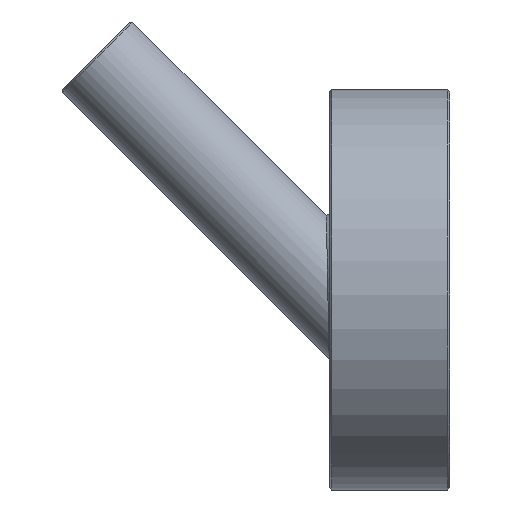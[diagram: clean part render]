
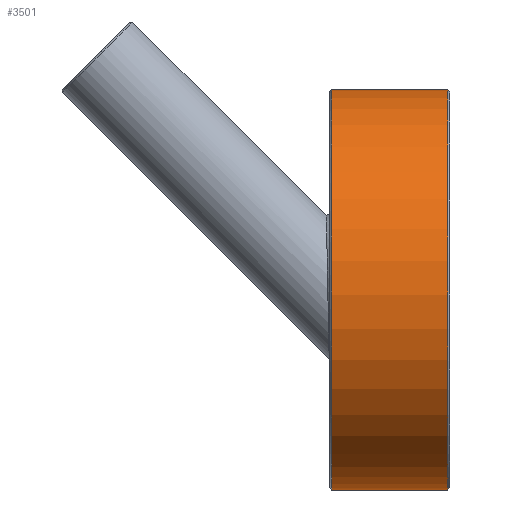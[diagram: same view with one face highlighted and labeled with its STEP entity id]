
A CAD part, left-side view. The second image highlights one B-rep face of the part: STEP entity #3501.
In plain terms, the highlighted cylindrical face has radius 20 mm (diameter 40 mm), a partial arc.
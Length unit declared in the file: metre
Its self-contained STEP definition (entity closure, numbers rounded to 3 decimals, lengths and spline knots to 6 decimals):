
#3470=EDGE_CURVE('',#3471,#3473,#3475,.T.);
#3471=VERTEX_POINT('',#3472);
#3472=CARTESIAN_POINT('',(-0.14,0.0118,0.02));
#3473=VERTEX_POINT('',#3474);
#3474=CARTESIAN_POINT('',(-0.14,0.0002,0.02));
#3475=LINE('',#3476,#3477);
#3476=CARTESIAN_POINT('',(-0.14,0.012,0.02));
#3477=VECTOR('',#3478,1.0);
#3478=DIRECTION('',(0.0,-1.0,0.0));
#3501=ADVANCED_FACE('',(#3507),#3502,.T.);
#3502=CYLINDRICAL_SURFACE('',#3503,0.02);
#3503=AXIS2_PLACEMENT_3D('',#3504,#3505,#3506);
#3504=CARTESIAN_POINT('',(-0.14,0.012,0.0));
#3505=DIRECTION('',(0.0,-1.0,0.0));
#3506=DIRECTION('',(0.0,0.0,-1.0));
#3507=FACE_OUTER_BOUND('',#3508,.T.);
#3508=EDGE_LOOP('',(#3509,#3519,#3526,#3527));
#3509=ORIENTED_EDGE('',*,*,#3510,.T.);
#3510=EDGE_CURVE('',#3511,#3513,#3515,.T.);
#3511=VERTEX_POINT('',#3512);
#3512=CARTESIAN_POINT('',(-0.14,0.0118,-0.02));
#3513=VERTEX_POINT('',#3514);
#3514=CARTESIAN_POINT('',(-0.14,0.0002,-0.02));
#3515=LINE('',#3516,#3517);
#3516=CARTESIAN_POINT('',(-0.14,0.012,-0.02));
#3517=VECTOR('',#3518,1.0);
#3518=DIRECTION('',(0.0,-1.0,0.0));
#3519=ORIENTED_EDGE('',*,*,#3521,.T.);
#3520=CARTESIAN_POINT('',(-0.14,0.0002,0.02));
#3521=EDGE_CURVE('',#3513,#3473,#3522,.F.);
#3522=(B_SPLINE_CURVE(3,(#3520,#3523,#3524,#3525),.UNSPECIFIED.,.F.,.U.)B_SPLINE_CURVE_WITH_KNOTS(
  (4,4),(0.0,1.0),.UNSPECIFIED.)BOUNDED_CURVE()CURVE()GEOMETRIC_REPRESENTATION_ITEM(
  )RATIONAL_B_SPLINE_CURVE((1.0,0.333,0.333,1.0)
  )REPRESENTATION_ITEM(''));
#3523=CARTESIAN_POINT('',(-0.18,0.0002,0.02));
#3524=CARTESIAN_POINT('',(-0.18,0.0002,-0.02));
#3525=CARTESIAN_POINT('',(-0.14,0.0002,-0.02));
#3526=ORIENTED_EDGE('',*,*,#3470,.F.);
#3527=ORIENTED_EDGE('',*,*,#3529,.T.);
#3528=CARTESIAN_POINT('',(-0.14,0.0118,0.02));
#3529=EDGE_CURVE('',#3471,#3511,#3530,.T.);
#3530=(B_SPLINE_CURVE(3,(#3528,#3531,#3532,#3533),.UNSPECIFIED.,.F.,.U.)B_SPLINE_CURVE_WITH_KNOTS(
  (4,4),(0.0,1.0),.UNSPECIFIED.)BOUNDED_CURVE()CURVE()GEOMETRIC_REPRESENTATION_ITEM(
  )RATIONAL_B_SPLINE_CURVE((1.0,0.333,0.333,1.0)
  )REPRESENTATION_ITEM(''));
#3531=CARTESIAN_POINT('',(-0.18,0.0118,0.02));
#3532=CARTESIAN_POINT('',(-0.18,0.0118,-0.02));
#3533=CARTESIAN_POINT('',(-0.14,0.0118,-0.02));
